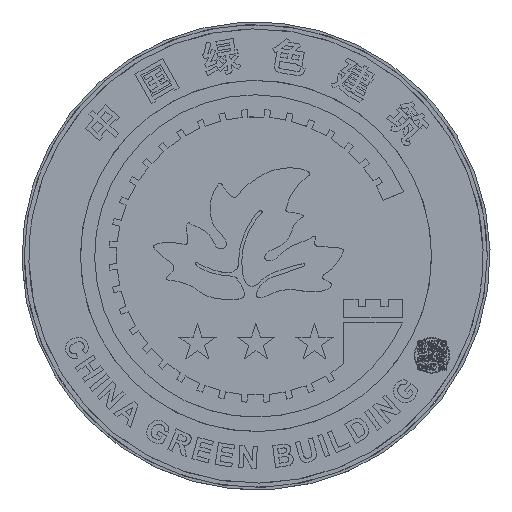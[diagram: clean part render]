
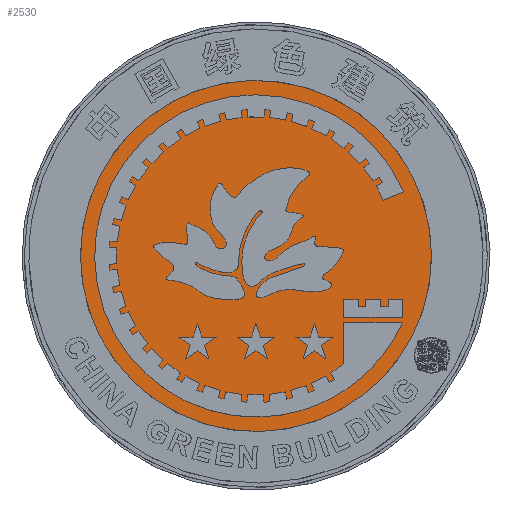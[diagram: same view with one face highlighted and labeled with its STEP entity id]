
A CAD part, top view. The second image highlights one B-rep face of the part: STEP entity #2530.
In plain terms, the highlighted planar face has unit normal (0, 0, 1).
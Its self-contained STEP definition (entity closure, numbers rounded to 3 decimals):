
#2530=ADVANCED_FACE('',(#4808),#32276,.T.);
#4808=FACE_OUTER_BOUND('',#7128,.T.);
#7128=EDGE_LOOP('',(#13898,#13899));
#13898=ORIENTED_EDGE('',*,*,#21010,.T.);
#13899=ORIENTED_EDGE('',*,*,#21013,.T.);
#21010=EDGE_CURVE('',#30157,#30159,#26094,.T.);
#21013=EDGE_CURVE('',#30159,#30157,#26097,.T.);
#26094=B_SPLINE_CURVE_WITH_KNOTS('',3,(#66547,#66548,#66549,#66550,#66551,
#66552,#66553,#66554,#66555,#66556,#66557,#66558,#66559),.UNSPECIFIED.,
 .F.,.F.,(4,3,3,3,4),(-9.,-8.,-7.,-6.,-5.),.UNSPECIFIED.);
#26097=B_SPLINE_CURVE_WITH_KNOTS('',3,(#66575,#66576,#66577,#66578,#66579,
#66580,#66581,#66582,#66583,#66584,#66585,#66586,#66587),.UNSPECIFIED.,
 .F.,.F.,(4,3,3,3,4),(-5.,-4.,-3.,-2.,-1.),.UNSPECIFIED.);
#30157=VERTEX_POINT('',#66529);
#30159=VERTEX_POINT('',#66531);
#32276=PLANE('',#34574);
#34574=AXIS2_PLACEMENT_3D('',#66501,#35393,$);
#35393=DIRECTION('',(0.,0.,1.));
#66501=CARTESIAN_POINT('',(5490.037,2853.292,-10.));
#66529=CARTESIAN_POINT('',(5392.043,2490.165,-10.));
#66531=CARTESIAN_POINT('',(5119.128,2747.521,-10.));
#66547=CARTESIAN_POINT('',(5392.043,2490.165,-10.));
#66548=CARTESIAN_POINT('',(5426.219,2526.41,-10.));
#66549=CARTESIAN_POINT('',(5444.526,2574.547,-10.));
#66550=CARTESIAN_POINT('',(5443.066,2624.34,-10.));
#66551=CARTESIAN_POINT('',(5441.605,2674.14,-10.));
#66552=CARTESIAN_POINT('',(5420.507,2721.123,-10.));
#66553=CARTESIAN_POINT('',(5384.262,2755.299,-10.));
#66554=CARTESIAN_POINT('',(5348.021,2789.479,-10.));
#66555=CARTESIAN_POINT('',(5299.88,2807.781,-10.));
#66556=CARTESIAN_POINT('',(5250.088,2806.321,-10.));
#66557=CARTESIAN_POINT('',(5200.288,2804.861,-10.));
#66558=CARTESIAN_POINT('',(5153.308,2783.766,-10.));
#66559=CARTESIAN_POINT('',(5119.128,2747.521,-10.));
#66575=CARTESIAN_POINT('',(5119.128,2747.521,-10.));
#66576=CARTESIAN_POINT('',(5084.952,2711.276,-10.));
#66577=CARTESIAN_POINT('',(5066.646,2663.141,-10.));
#66578=CARTESIAN_POINT('',(5068.106,2613.343,-10.));
#66579=CARTESIAN_POINT('',(5069.566,2563.547,-10.));
#66580=CARTESIAN_POINT('',(5090.662,2516.564,-10.));
#66581=CARTESIAN_POINT('',(5126.907,2482.384,-10.));
#66582=CARTESIAN_POINT('',(5163.152,2448.208,-10.));
#66583=CARTESIAN_POINT('',(5211.286,2429.905,-10.));
#66584=CARTESIAN_POINT('',(5261.084,2431.366,-10.));
#66585=CARTESIAN_POINT('',(5310.881,2432.826,-10.));
#66586=CARTESIAN_POINT('',(5357.864,2453.92,-10.));
#66587=CARTESIAN_POINT('',(5392.043,2490.165,-10.));
